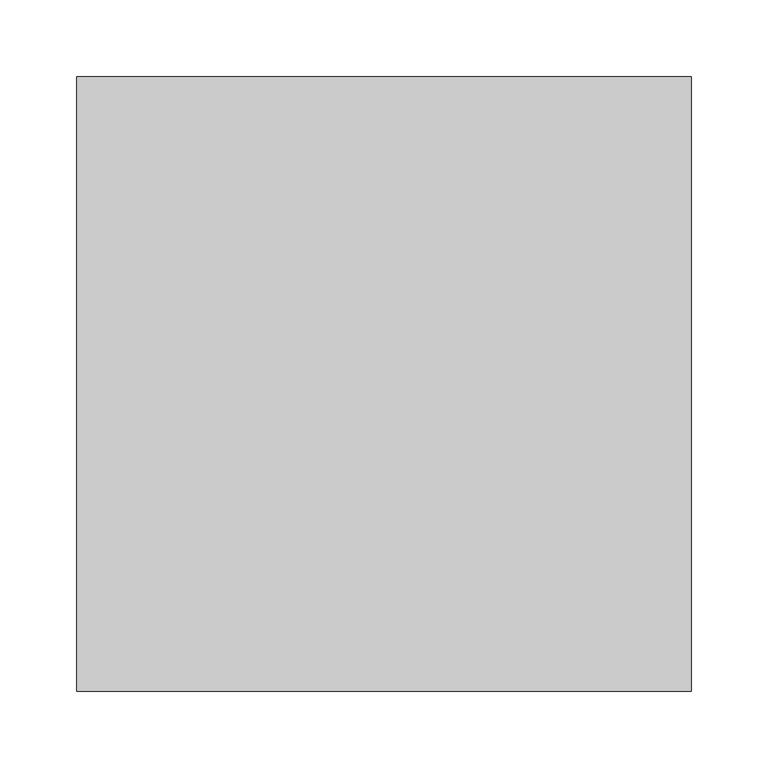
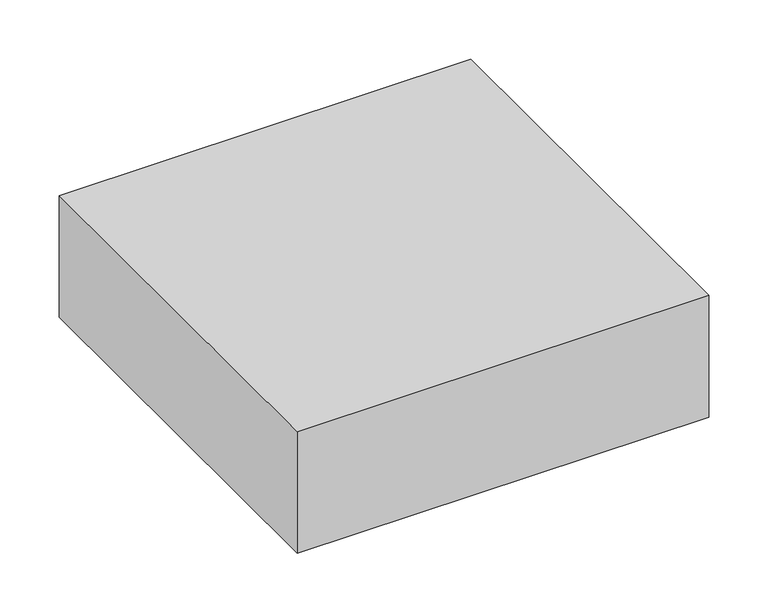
"""IFC4 building model written with IfcOpenShell, lengths in millimetres: proxy geometry, Módulo Laje de Concreto Celular - Celucon : MLCC 12,5x40x40cm (A x B x B)."""

from ifc_helpers import new_model, si_unit, origin, origin_with_axes, place, context, project, spatial, polyline, outline, extrude, source, transform, mapped, element, save


def generic_models_7fb4620e(model_context):
    return source(origin(), model_context, "Body", "SweptSolid", [
        extrude(outline(polyline([(200.0, 200.0), (200.0, -200.0), (-200.0, -200.0), (-200.0, 200.0), (200.0, 200.0)])), origin_with_axes(), (0.0, 0.0, 1.0), 125.0),
    ])


if __name__ == "__main__":
    model = new_model("IFC4")
    model_context = context("Model", 3, world=origin())
    ifc_project = project(units=[si_unit("LENGTHUNIT", "METRE", prefix="MILLI")], contexts=[model_context])
    site = spatial("IfcSite", under=ifc_project)
    building = spatial("IfcBuilding", under=site)
    placement = place(None, origin())
    generic_models_shape = generic_models_7fb4620e(model_context)
    element("IfcBuildingElementProxy", 1, Name="Módulo Laje de Concreto Celular - Celucon : MLCC 12,5x40x40cm (A x B x B)", ObjectType="Módulo Laje de Concreto Celular - Celucon : MLCC 12,5x40x40cm (A x B x B)", at=placement, inside=building, context=model_context, shape_type="MappedRepresentation", body=[
        mapped(generic_models_shape, transform((0.0, 0.0, 0.0), x_axis=(1.0, 0.0, 0.0), y_axis=(0.0, 1.0, 0.0), z_axis=(0.0, 0.0, 1.0))),
    ])
    save(model, "model.ifc")
